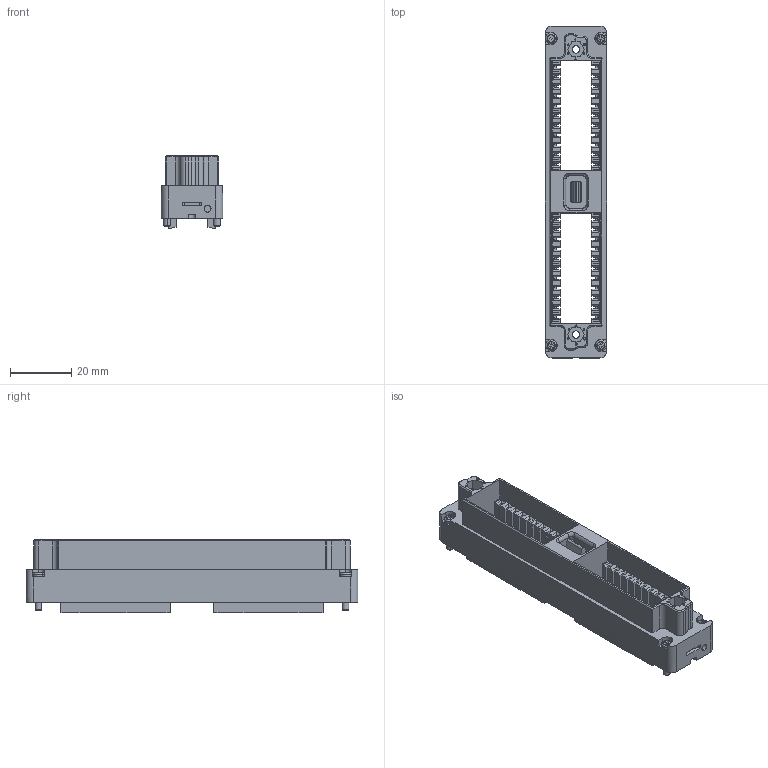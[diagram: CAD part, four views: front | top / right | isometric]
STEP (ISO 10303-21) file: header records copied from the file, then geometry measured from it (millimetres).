
FILE_DESCRIPTION (( 'STEP AP203' ), '1' );
FILE_NAME ('310130113.STEP', '2017-07-06T15:23:50', ( '' ), ( '' ), 'SwSTEP 2.0', 'SolidWorks 2017', '' );
FILE_SCHEMA (( 'CONFIG_CONTROL_DESIGN' ));
Length unit declared in the file: inch
Products named in the file (1): 310130113
Bounding box: 20.07 x 108.2 x 23.83 mm (x, y, z)
Volume: 16835.2 mm3; surface area: 23359.4 mm2
Topology: 3 solids, 5 shells, 1905 faces, 5089 edges, 3276 vertices
Faces by surface type: plane 1435, cylinder 223, bspline 185, cone 38, torus 24
Entity records: 68873 total; most frequent: CARTESIAN_POINT 22158, ORIENTED_EDGE 10166, DIRECTION 8702, EDGE_CURVE 5083, VECTOR 4158, LINE 4158, VERTEX_POINT 3276, AXIS2_PLACEMENT_3D 2272
